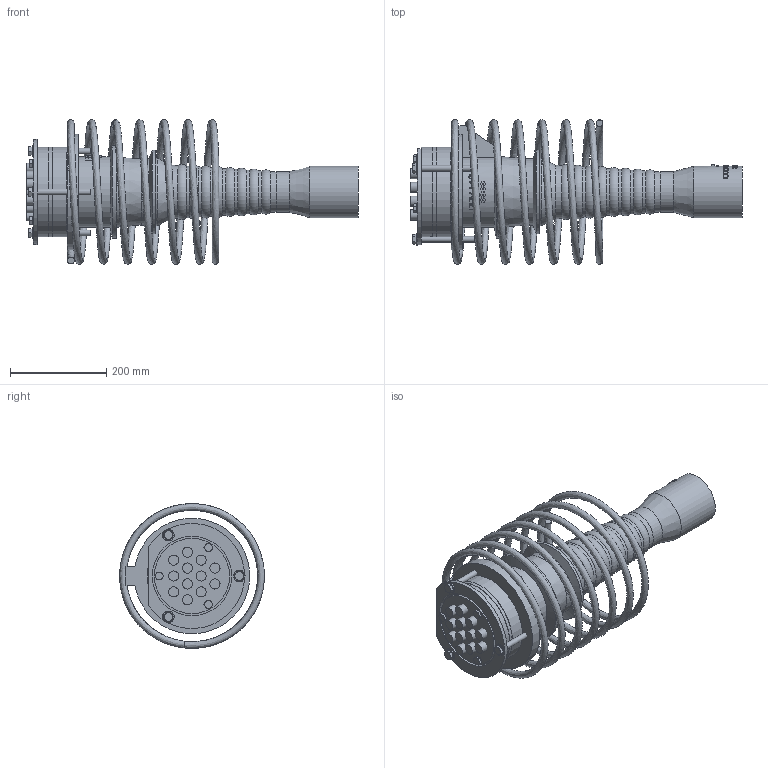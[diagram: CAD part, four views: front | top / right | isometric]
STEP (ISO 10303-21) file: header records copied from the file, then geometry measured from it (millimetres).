
FILE_DESCRIPTION(/* description */ (''),/* implementation_level */ '2;1');
FILE_NAME(/* name */ 'C:\Users\klukas\VAULT\CAD-Daten\Konstruktion\02a. Zusammenbau\Z-13.1-114 Typ i-Litzenspannverf. m. Verbund\Fe - L12 flex.AK\Z-13.1-114.Fe.012.20 (Fe) L12i flex.Abdeckkappe.stp',/* time_stamp */ '2023-08-23T13:29:03+02:00',/* author */ ('klukas'),/* organization */ (''),/* preprocessor_version */ 'ST-DEVELOPER v18.1',/* originating_system */ 'Autodesk Inventor 2021',/* authorisation */ '');
FILE_SCHEMA (('AUTOMOTIVE_DESIGN { 1 0 10303 214 3 1 1 }'));
Length unit declared in the file: millimetre
Products named in the file (1): Z-13.1-114.Fe.012.20 (Fe) L12i flex.Abdeckkappe-rfa+stp
Bounding box: 688.47 x 299.96 x 299.98 mm (x, y, z)
Volume: 10870876.9 mm3; surface area: 1030535 mm2
Topology: 21 solids, 21 shells, 604 faces, 1457 edges, 955 vertices
Faces by surface type: plane 303, bspline 153, cylinder 84, cone 55, torus 9
Full cylindrical faces by diameter (mm): 5 x1, 10 x3, 12 x3, 14.63 x3, 16 x3, 16.63 x3, 21 x12, 24 x3, 84 x1, 107 x1, 121 x2, 136.966 x1, 140 x1, 156 x1, 165 x1, 174 x1, 179 x1, 180 x1, 184 x1, 185 x1, 192 x1
Entity records: 35512 total; most frequent: CARTESIAN_POINT 21657, ORIENTED_EDGE 2914, DIRECTION 2344, EDGE_CURVE 1457, VERTEX_POINT 955, AXIS2_PLACEMENT_3D 873, EDGE_LOOP 668, STYLED_ITEM 625
